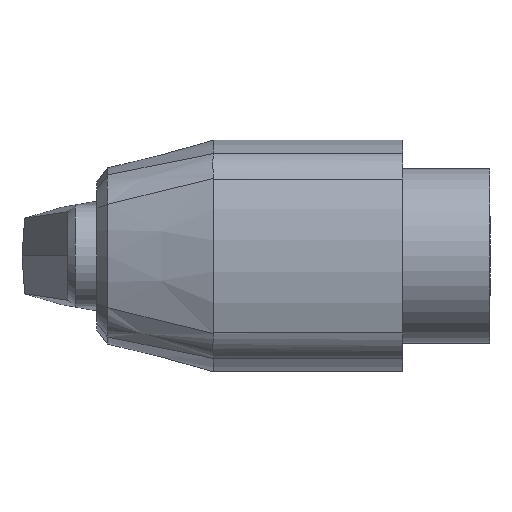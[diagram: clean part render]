
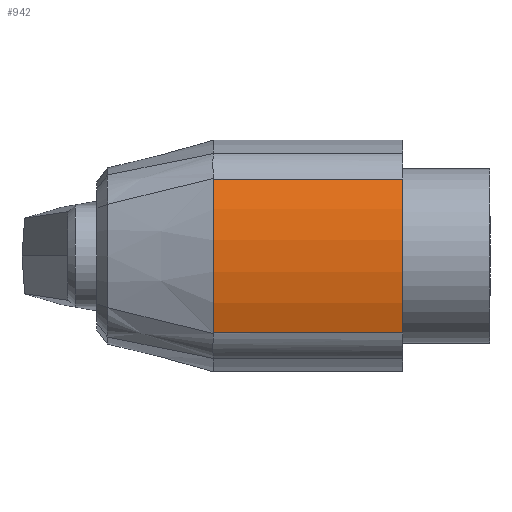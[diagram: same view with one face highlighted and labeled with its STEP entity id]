
A CAD part, left-side view. The second image highlights one B-rep face of the part: STEP entity #942.
In plain terms, the highlighted cylindrical face has radius 15.262 mm (diameter 30.524 mm), a partial arc.
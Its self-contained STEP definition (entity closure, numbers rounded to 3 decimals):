
#15 = CYLINDRICAL_SURFACE ( 'NONE', #1749, 15.262 ) ;
#44 = ORIENTED_EDGE ( 'NONE', *, *, #1334, .T. ) ;
#146 = FACE_OUTER_BOUND ( 'NONE', #1122, .T. ) ;
#188 = ORIENTED_EDGE ( 'NONE', *, *, #1093, .T. ) ;
#196 = VECTOR ( 'NONE', #1171, 1000. ) ;
#199 = VERTEX_POINT ( 'NONE', #1229 ) ;
#320 = DIRECTION ( 'NONE',  ( 0., 0., 1. ) ) ;
#342 = CARTESIAN_POINT ( 'NONE',  ( -7.057, 13., -5.281 ) ) ;
#357 = VERTEX_POINT ( 'NONE', #1415 ) ;
#436 = LINE ( 'NONE', #1305, #196 ) ;
#540 = VERTEX_POINT ( 'NONE', #1504 ) ;
#612 = CARTESIAN_POINT ( 'NONE',  ( 7.262, 0., 0. ) ) ;
#939 = CIRCLE ( 'NONE', #1844, 15.262 ) ;
#942 = ADVANCED_FACE ( 'NONE', ( #146 ), #15, .T. ) ;
#989 = ORIENTED_EDGE ( 'NONE', *, *, #1781, .F. ) ;
#1001 = DIRECTION ( 'NONE',  ( 0., 0., -1. ) ) ;
#1009 = ORIENTED_EDGE ( 'NONE', *, *, #1150, .T. ) ;
#1019 = DIRECTION ( 'NONE',  ( 0., -1., 0. ) ) ;
#1064 = LINE ( 'NONE', #342, #1728 ) ;
#1093 = EDGE_CURVE ( 'NONE', #357, #540, #436, .T. ) ;
#1102 = VERTEX_POINT ( 'NONE', #1732 ) ;
#1122 = EDGE_LOOP ( 'NONE', ( #989, #1009, #44, #188 ) ) ;
#1150 = EDGE_CURVE ( 'NONE', #1102, #199, #1064, .T. ) ;
#1163 = DIRECTION ( 'NONE',  ( 0., 0., -1. ) ) ;
#1171 = DIRECTION ( 'NONE',  ( 0., 1., 0. ) ) ;
#1229 = CARTESIAN_POINT ( 'NONE',  ( -7.057, 0., -5.281 ) ) ;
#1233 = AXIS2_PLACEMENT_3D ( 'NONE', #1705, #1414, #1001 ) ;
#1305 = CARTESIAN_POINT ( 'NONE',  ( -7.057, 13., 5.281 ) ) ;
#1334 = EDGE_CURVE ( 'NONE', #199, #357, #939, .T. ) ;
#1381 = CIRCLE ( 'NONE', #1233, 15.262 ) ;
#1414 = DIRECTION ( 'NONE',  ( 0., 1., 0. ) ) ;
#1415 = CARTESIAN_POINT ( 'NONE',  ( -7.057, 0., 5.281 ) ) ;
#1504 = CARTESIAN_POINT ( 'NONE',  ( -7.057, 13., 5.281 ) ) ;
#1605 = DIRECTION ( 'NONE',  ( 0., 1., 0. ) ) ;
#1632 = DIRECTION ( 'NONE',  ( 0., -1., 0. ) ) ;
#1705 = CARTESIAN_POINT ( 'NONE',  ( 7.262, 13., 0. ) ) ;
#1715 = CARTESIAN_POINT ( 'NONE',  ( 7.262, 13., 0. ) ) ;
#1728 = VECTOR ( 'NONE', #1632, 1000. ) ;
#1732 = CARTESIAN_POINT ( 'NONE',  ( -7.057, 13., -5.281 ) ) ;
#1749 = AXIS2_PLACEMENT_3D ( 'NONE', #1715, #1019, #1163 ) ;
#1781 = EDGE_CURVE ( 'NONE', #1102, #540, #1381, .T. ) ;
#1844 = AXIS2_PLACEMENT_3D ( 'NONE', #612, #1605, #320 ) ;
